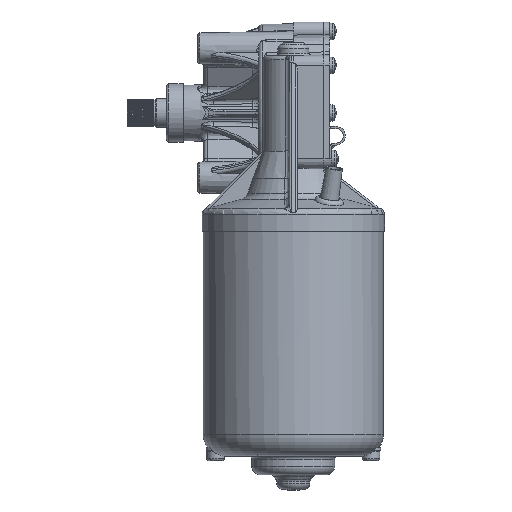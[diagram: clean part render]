
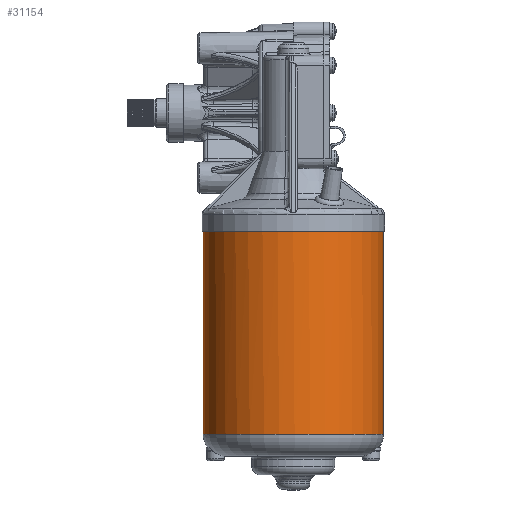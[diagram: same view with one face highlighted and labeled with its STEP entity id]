
A CAD part, front view. The second image highlights one B-rep face of the part: STEP entity #31154.
In plain terms, the highlighted cylindrical face has radius 43.5 mm (diameter 87 mm), a full revolution.
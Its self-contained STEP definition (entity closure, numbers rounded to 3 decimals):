
#5266=FACE_BOUND($,#7870,.T.);
#5501=CYLINDRICAL_SURFACE($,#33140,43.5);
#6028=FACE_OUTER_BOUND($,#7869,.T.);
#7869=EDGE_LOOP($,(#19435));
#7870=EDGE_LOOP($,(#19436));
#9932=CIRCLE($,#33107,43.5);
#9949=CIRCLE($,#33141,43.5);
#11522=VERTEX_POINT($,#44771);
#11535=VERTEX_POINT($,#44926);
#14634=EDGE_CURVE($,#11522,#11522,#9932,.T.);
#14653=EDGE_CURVE($,#11535,#11535,#9949,.T.);
#19435=ORIENTED_EDGE($,*,*,#14634,.F.);
#19436=ORIENTED_EDGE($,*,*,#14653,.F.);
#31154=ADVANCED_FACE($,(#6028,#5266),#5501,.T.);
#33107=AXIS2_PLACEMENT_3D($,#44772,#36523,#36524);
#33140=AXIS2_PLACEMENT_3D($,#44925,#36589,#36590);
#33141=AXIS2_PLACEMENT_3D($,#44927,#36591,#36592);
#36523=DIRECTION('center_axis',(0.,0.,-1.));
#36524=DIRECTION('ref_axis',(1.,0.,0.));
#36589=DIRECTION('center_axis',(0.,0.,-1.));
#36590=DIRECTION('ref_axis',(1.,0.,0.));
#36591=DIRECTION('center_axis',(0.,0.,1.));
#36592=DIRECTION('ref_axis',(1.,0.,0.));
#44771=CARTESIAN_POINT('',(43.5,-41.95,-155.));
#44772=CARTESIAN_POINT('Origin',(0.,-41.95,-155.));
#44925=CARTESIAN_POINT('Origin',(0.,-41.95,-106.));
#44926=CARTESIAN_POINT('',(43.5,-41.95,-57.));
#44927=CARTESIAN_POINT('Origin',(0.,-41.95,-57.));
